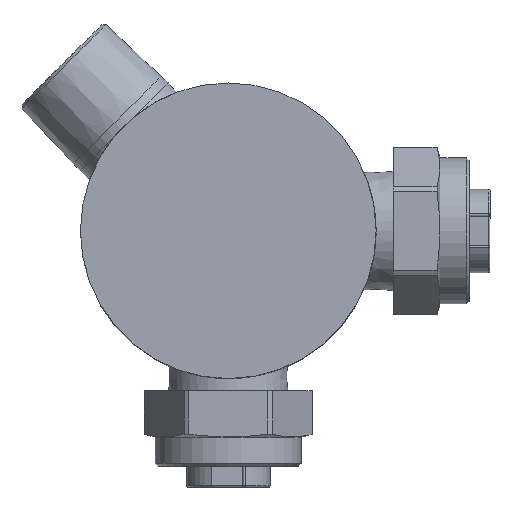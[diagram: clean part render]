
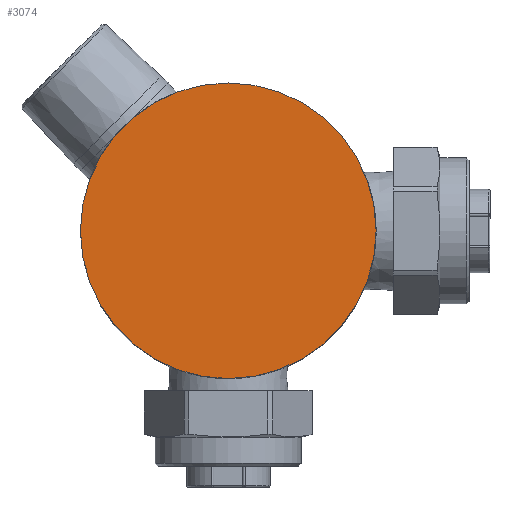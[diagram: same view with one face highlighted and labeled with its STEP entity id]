
A CAD part, top view. The second image highlights one B-rep face of the part: STEP entity #3074.
In plain terms, the highlighted planar face has unit normal (0, 0, 1).
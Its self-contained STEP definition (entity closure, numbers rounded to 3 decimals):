
#910=FACE_OUTER_BOUND('',#1237,.T.);
#1237=EDGE_LOOP('',(#2770));
#1477=CIRCLE('',#3504,25.4);
#1741=VERTEX_POINT('',#5847);
#2090=EDGE_CURVE('',#1741,#1741,#1477,.T.);
#2770=ORIENTED_EDGE('',*,*,#2090,.F.);
#2870=PLANE('',#3506);
#3074=ADVANCED_FACE('',(#910),#2870,.F.);
#3504=AXIS2_PLACEMENT_3D('',#5848,#4426,#4427);
#3506=AXIS2_PLACEMENT_3D('',#5851,#4430,#4431);
#4426=DIRECTION('center_axis',(0.,0.,-1.));
#4427=DIRECTION('ref_axis',(-1.,0.,0.));
#4430=DIRECTION('center_axis',(0.,0.,-1.));
#4431=DIRECTION('ref_axis',(-1.,0.,0.));
#5847=CARTESIAN_POINT('',(25.432,-0.951,15.));
#5848=CARTESIAN_POINT('Origin',(0.032,-0.951,15.));
#5851=CARTESIAN_POINT('Origin',(0.032,-0.951,15.));
